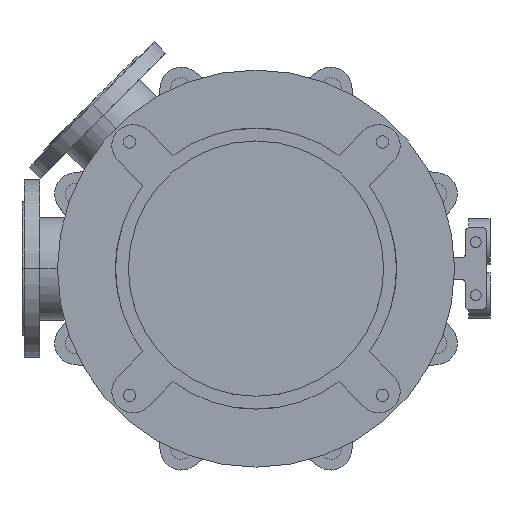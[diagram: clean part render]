
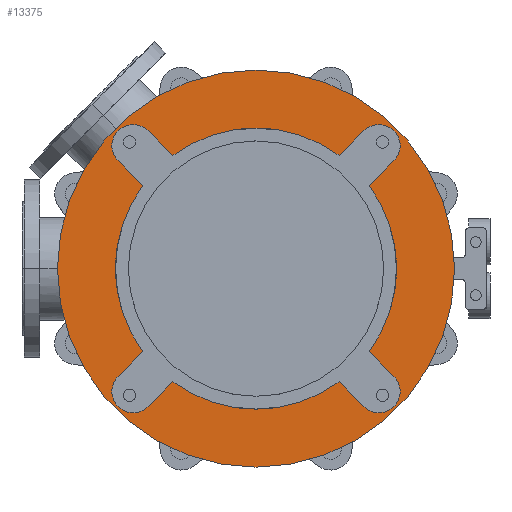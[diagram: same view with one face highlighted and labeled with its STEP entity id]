
A CAD part, front view. The second image highlights one B-rep face of the part: STEP entity #13375.
In plain terms, the highlighted planar face has unit normal (0, -1, 0).
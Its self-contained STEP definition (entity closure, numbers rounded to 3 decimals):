
#3036=CARTESIAN_POINT('',(0.,-25.,0.));
#3037=DIRECTION('',(0.,1.,0.));
#3038=DIRECTION('',(0.592,0.,-0.806));
#3039=AXIS2_PLACEMENT_3D('',#3036,#3037,#3038);
#3054=CARTESIAN_POINT('',(0.,-25.,0.));
#3055=DIRECTION('',(0.,1.,0.));
#3056=DIRECTION('',(0.806,0.,0.592));
#3057=AXIS2_PLACEMENT_3D('',#3054,#3055,#3056);
#3081=CARTESIAN_POINT('',(0.,-25.,0.));
#3082=DIRECTION('',(0.,1.,0.));
#3083=DIRECTION('',(-0.806,0.,-0.592));
#3084=AXIS2_PLACEMENT_3D('',#3081,#3082,#3083);
#3090=CARTESIAN_POINT('',(0.,-25.,0.));
#3091=DIRECTION('',(0.,1.,0.));
#3092=DIRECTION('',(-0.592,0.,0.806));
#3093=AXIS2_PLACEMENT_3D('',#3090,#3091,#3092);
#3268=CARTESIAN_POINT('',(0.,-25.,0.));
#3269=DIRECTION('',(0.,-1.,0.));
#3270=DIRECTION('',(-1.,0.,0.));
#3271=AXIS2_PLACEMENT_3D('',#3268,#3269,#3270);
#3273=CARTESIAN_POINT('',(0.,-25.,0.));
#3274=DIRECTION('',(0.,1.,0.));
#3275=DIRECTION('',(-1.,0.,0.));
#3276=AXIS2_PLACEMENT_3D('',#3273,#3274,#3275);
#3278=CARTESIAN_POINT('',(-173.241,-25.,173.241));
#3279=DIRECTION('',(0.,-1.,0.));
#3280=DIRECTION('',(0.707,0.,0.707));
#3281=AXIS2_PLACEMENT_3D('',#3278,#3279,#3280);
#3283=DIRECTION('',(0.707,0.,-0.707));
#3284=VECTOR('',#3283,49.286);
#3285=CARTESIAN_POINT('',(-194.454,-25.,152.028));
#3286=LINE('',#3285,#3284);
#3287=DIRECTION('',(-0.707,0.,-0.707));
#3288=VECTOR('',#3287,49.286);
#3289=CARTESIAN_POINT('',(-159.604,-25.,-117.178));
#3290=LINE('',#3289,#3288);
#3291=CARTESIAN_POINT('',(-173.241,-25.,-173.241));
#3292=DIRECTION('',(0.,-1.,0.));
#3293=DIRECTION('',(-0.707,0.,0.707));
#3294=AXIS2_PLACEMENT_3D('',#3291,#3292,#3293);
#3296=DIRECTION('',(0.707,0.,0.707));
#3297=VECTOR('',#3296,49.286);
#3298=CARTESIAN_POINT('',(-152.028,-25.,-194.454));
#3299=LINE('',#3298,#3297);
#3300=DIRECTION('',(0.707,0.,-0.707));
#3301=VECTOR('',#3300,49.286);
#3302=CARTESIAN_POINT('',(117.178,-25.,-159.604));
#3303=LINE('',#3302,#3301);
#3304=CARTESIAN_POINT('',(173.241,-25.,-173.241));
#3305=DIRECTION('',(0.,-1.,0.));
#3306=DIRECTION('',(-0.707,0.,-0.707));
#3307=AXIS2_PLACEMENT_3D('',#3304,#3305,#3306);
#3309=DIRECTION('',(-0.707,0.,0.707));
#3310=VECTOR('',#3309,49.286);
#3311=CARTESIAN_POINT('',(194.454,-25.,-152.028));
#3312=LINE('',#3311,#3310);
#3313=DIRECTION('',(0.707,0.,0.707));
#3314=VECTOR('',#3313,49.286);
#3315=CARTESIAN_POINT('',(159.604,-25.,117.178));
#3316=LINE('',#3315,#3314);
#3317=CARTESIAN_POINT('',(173.241,-25.,173.241));
#3318=DIRECTION('',(0.,-1.,0.));
#3319=DIRECTION('',(0.707,0.,-0.707));
#3320=AXIS2_PLACEMENT_3D('',#3317,#3318,#3319);
#3322=DIRECTION('',(-0.707,0.,-0.707));
#3323=VECTOR('',#3322,49.286);
#3324=CARTESIAN_POINT('',(152.028,-25.,194.454));
#3325=LINE('',#3324,#3323);
#3326=DIRECTION('',(-0.707,0.,0.707));
#3327=VECTOR('',#3326,49.286);
#3328=CARTESIAN_POINT('',(-117.178,-25.,159.604));
#3329=LINE('',#3328,#3327);
#8355=CARTESIAN_POINT('',(-280.,-25.,0.));
#8356=CARTESIAN_POINT('',(280.,-25.,0.));
#8357=VERTEX_POINT('',#8355);
#8358=VERTEX_POINT('',#8356);
#8379=CARTESIAN_POINT('',(-194.454,-25.,-152.028));
#8380=CARTESIAN_POINT('',(-152.028,-25.,-194.454));
#8381=VERTEX_POINT('',#8379);
#8382=VERTEX_POINT('',#8380);
#8383=CARTESIAN_POINT('',(-117.178,-25.,-159.604));
#8384=VERTEX_POINT('',#8383);
#8385=CARTESIAN_POINT('',(-159.604,-25.,-117.178));
#8386=VERTEX_POINT('',#8385);
#8395=CARTESIAN_POINT('',(152.028,-25.,-194.454));
#8396=CARTESIAN_POINT('',(194.454,-25.,-152.028));
#8397=VERTEX_POINT('',#8395);
#8398=VERTEX_POINT('',#8396);
#8399=CARTESIAN_POINT('',(159.604,-25.,-117.178));
#8400=VERTEX_POINT('',#8399);
#8401=CARTESIAN_POINT('',(117.178,-25.,-159.604));
#8402=VERTEX_POINT('',#8401);
#8411=CARTESIAN_POINT('',(194.454,-25.,152.028));
#8412=CARTESIAN_POINT('',(152.028,-25.,194.454));
#8413=VERTEX_POINT('',#8411);
#8414=VERTEX_POINT('',#8412);
#8415=CARTESIAN_POINT('',(117.178,-25.,159.604));
#8416=VERTEX_POINT('',#8415);
#8417=CARTESIAN_POINT('',(159.604,-25.,117.178));
#8418=VERTEX_POINT('',#8417);
#8427=CARTESIAN_POINT('',(-152.028,-25.,194.454));
#8428=CARTESIAN_POINT('',(-194.454,-25.,152.028));
#8429=VERTEX_POINT('',#8427);
#8430=VERTEX_POINT('',#8428);
#8431=CARTESIAN_POINT('',(-159.604,-25.,117.178));
#8432=VERTEX_POINT('',#8431);
#8433=CARTESIAN_POINT('',(-117.178,-25.,159.604));
#8434=VERTEX_POINT('',#8433);
#13335=CARTESIAN_POINT('',(0.,-25.,0.));
#13336=DIRECTION('',(0.,-1.,0.));
#13337=DIRECTION('',(-1.,0.,0.));
#13338=AXIS2_PLACEMENT_3D('',#13335,#13336,#13337);
#13339=PLANE('',#13338);
#13341=ORIENTED_EDGE('',*,*,#13340,.F.);
#13343=ORIENTED_EDGE('',*,*,#13342,.T.);
#13344=EDGE_LOOP('',(#13341,#13343));
#13345=FACE_OUTER_BOUND('',#13344,.F.);
#13347=ORIENTED_EDGE('',*,*,#13346,.T.);
#13349=ORIENTED_EDGE('',*,*,#13348,.T.);
#13350=ORIENTED_EDGE('',*,*,#13288,.F.);
#13352=ORIENTED_EDGE('',*,*,#13351,.T.);
#13354=ORIENTED_EDGE('',*,*,#13353,.T.);
#13356=ORIENTED_EDGE('',*,*,#13355,.T.);
#13357=ORIENTED_EDGE('',*,*,#13241,.F.);
#13358=ORIENTED_EDGE('',*,*,#13325,.T.);
#13360=ORIENTED_EDGE('',*,*,#13359,.T.);
#13362=ORIENTED_EDGE('',*,*,#13361,.T.);
#13363=ORIENTED_EDGE('',*,*,#13262,.F.);
#13365=ORIENTED_EDGE('',*,*,#13364,.T.);
#13367=ORIENTED_EDGE('',*,*,#13366,.T.);
#13369=ORIENTED_EDGE('',*,*,#13368,.T.);
#13370=ORIENTED_EDGE('',*,*,#13306,.F.);
#13372=ORIENTED_EDGE('',*,*,#13371,.T.);
#13373=EDGE_LOOP('',(#13347,#13349,#13350,#13352,#13354,#13356,#13357,#13358,
#13360,#13362,#13363,#13365,#13367,#13369,#13370,#13372));
#13374=FACE_BOUND('',#13373,.F.);
#13375=ADVANCED_FACE('',(#13345,#13374),#13339,.T.);
#3040=CIRCLE('',#3039,198.);
#3058=CIRCLE('',#3057,198.);
#3085=CIRCLE('',#3084,198.);
#3094=CIRCLE('',#3093,198.);
#3272=CIRCLE('',#3271,280.);
#3277=CIRCLE('',#3276,280.);
#3282=CIRCLE('',#3281,30.);
#3295=CIRCLE('',#3294,30.);
#3308=CIRCLE('',#3307,30.);
#3321=CIRCLE('',#3320,30.);
#13241=EDGE_CURVE('',#8402,#8384,#3040,.T.);
#13262=EDGE_CURVE('',#8418,#8400,#3058,.T.);
#13288=EDGE_CURVE('',#8386,#8432,#3085,.T.);
#13306=EDGE_CURVE('',#8434,#8416,#3094,.T.);
#13325=EDGE_CURVE('',#8402,#8397,#3303,.T.);
#13340=EDGE_CURVE('',#8357,#8358,#3272,.T.);
#13342=EDGE_CURVE('',#8357,#8358,#3277,.T.);
#13346=EDGE_CURVE('',#8429,#8430,#3282,.T.);
#13348=EDGE_CURVE('',#8430,#8432,#3286,.T.);
#13351=EDGE_CURVE('',#8386,#8381,#3290,.T.);
#13353=EDGE_CURVE('',#8381,#8382,#3295,.T.);
#13355=EDGE_CURVE('',#8382,#8384,#3299,.T.);
#13359=EDGE_CURVE('',#8397,#8398,#3308,.T.);
#13361=EDGE_CURVE('',#8398,#8400,#3312,.T.);
#13364=EDGE_CURVE('',#8418,#8413,#3316,.T.);
#13366=EDGE_CURVE('',#8413,#8414,#3321,.T.);
#13368=EDGE_CURVE('',#8414,#8416,#3325,.T.);
#13371=EDGE_CURVE('',#8434,#8429,#3329,.T.);
